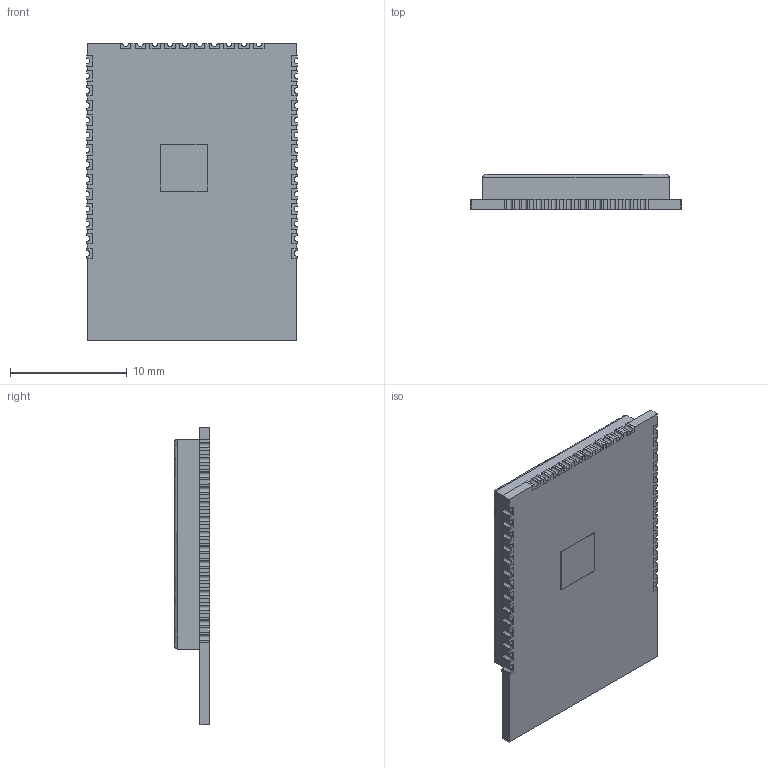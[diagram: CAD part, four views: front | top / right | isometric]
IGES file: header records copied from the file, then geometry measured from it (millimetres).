
Start section:  PTC IGES file: esp-wroom-32.igs
Global section: file name: esp-wroom-32.igs; native system: Creo Parametric by PTC Inc.; preprocessor: 2014440; author: MHamit; organization: Unknown; date: 20170123.105927; units: millimetre
Bounding box: 18.07 x 3.04 x 25.54 mm (x, y, z)
Surface area: 1148 mm2 (no closed solid volume)
Topology: 0 solids, 0 shells, 923 faces, 5330 edges, 5330 vertices
Faces by surface type: bspline 881, revolution 42
